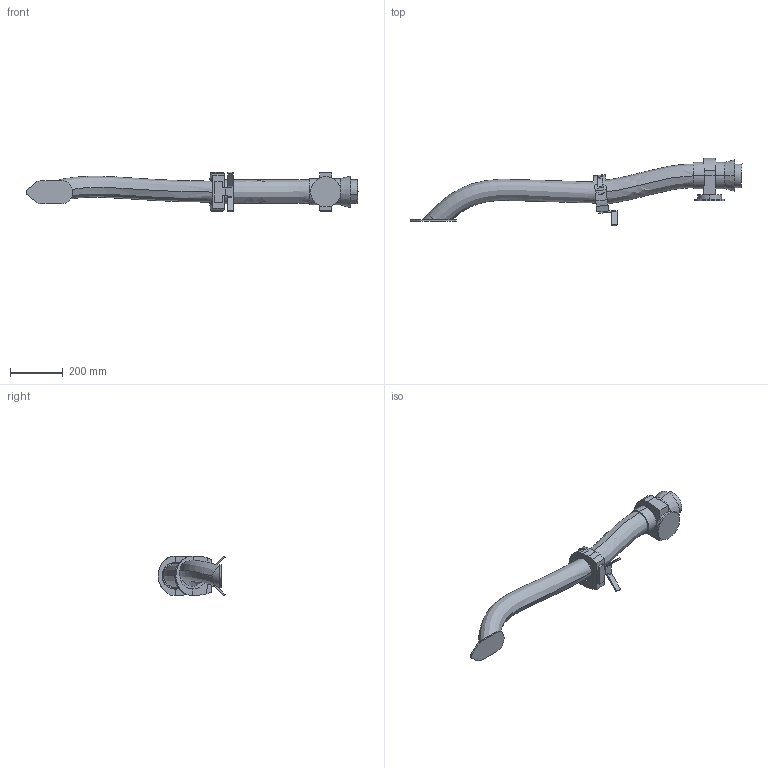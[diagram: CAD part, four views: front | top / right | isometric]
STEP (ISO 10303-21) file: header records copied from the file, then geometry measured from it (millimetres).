
FILE_DESCRIPTION (( 'STEP AP214' ), '1' );
FILE_NAME ('IRB5720-LID_90kg-300_OmniCore_rev00_LINK04_CABLE.step', '2025-07-08T10:56:16', ( '' ), ( '' ), 'SwSTEP 2.0', 'SolidWorks 2024', '' );
FILE_SCHEMA (( 'AUTOMOTIVE_DESIGN' ));
Length unit declared in the file: millimetre
Products named in the file (1): IRB5720-LID_90kg-300_OmniCore_rev00_LINK04_CABLE
Bounding box: 1260.15 x 256.22 x 150.86 mm (x, y, z)
Volume: 8119561.1 mm3; surface area: 556260.1 mm2
Topology: 1 solids, 7 shells, 292 faces, 731 edges, 473 vertices
Faces by surface type: plane 155, cylinder 78, bspline 29, cone 26, sphere 4
Entity records: 15887 total; most frequent: CARTESIAN_POINT 5816, ORIENTED_EDGE 1462, DIRECTION 1388, EDGE_CURVE 731, AXIS2_PLACEMENT_3D 505, VERTEX_POINT 473, LINE 378, VECTOR 378
